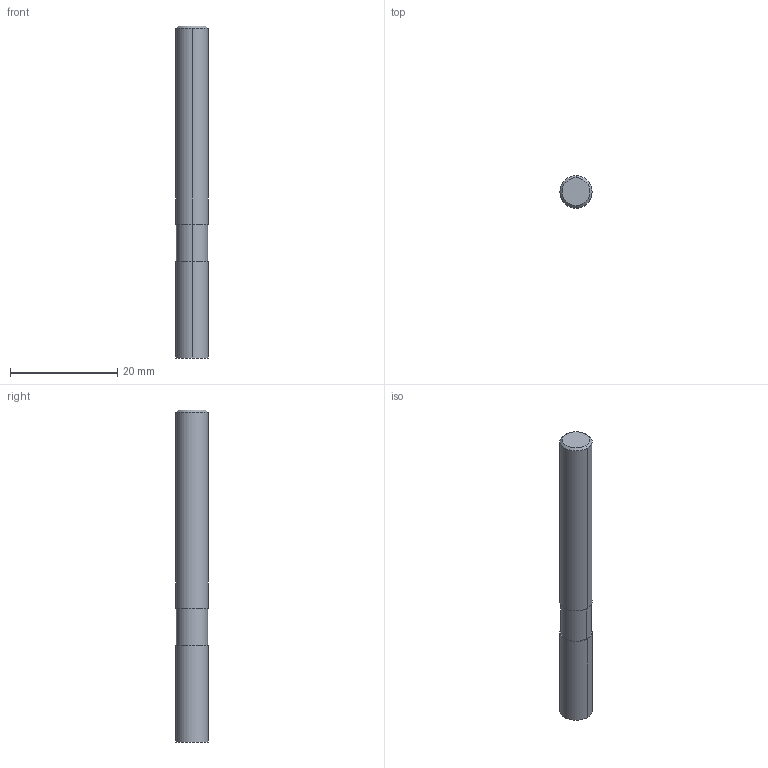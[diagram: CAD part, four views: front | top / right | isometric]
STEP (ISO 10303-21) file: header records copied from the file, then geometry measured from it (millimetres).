
FILE_DESCRIPTION((''),'2;1');
FILE_NAME('DIN4003_82_HEURO','2016-04-11T',('automc'),(''),'PRO/ENGINEER BY PARAMETRIC TECHNOLOGY CORPORATION, 2015280','PRO/ENGINEER BY PARAMETRIC TECHNOLOGY CORPORATION, 2015280','');
FILE_SCHEMA(('AUTOMOTIVE_DESIGN { 1 0 10303 214 1 1 1 1 }'));
Length unit declared in the file: millimetre
Products named in the file (1): DIN4003_82_HEURO
Bounding box: 6 x 6 x 62 mm (x, y, z)
Volume: 1738.6 mm3; surface area: 1219.9 mm2
Topology: 1 solids, 1 shells, 12 faces, 24 edges, 17 vertices
Faces by surface type: bspline 12
Entity records: 704 total; most frequent: CARTESIAN_POINT 219, DIRECTION 68, ORIENTED_EDGE 44, AXIS2_PLACEMENT_3D 26, PRESENTATION_STYLE_ASSIGNMENT 23, STYLED_ITEM 23, EDGE_CURVE 22, VECTOR 16
